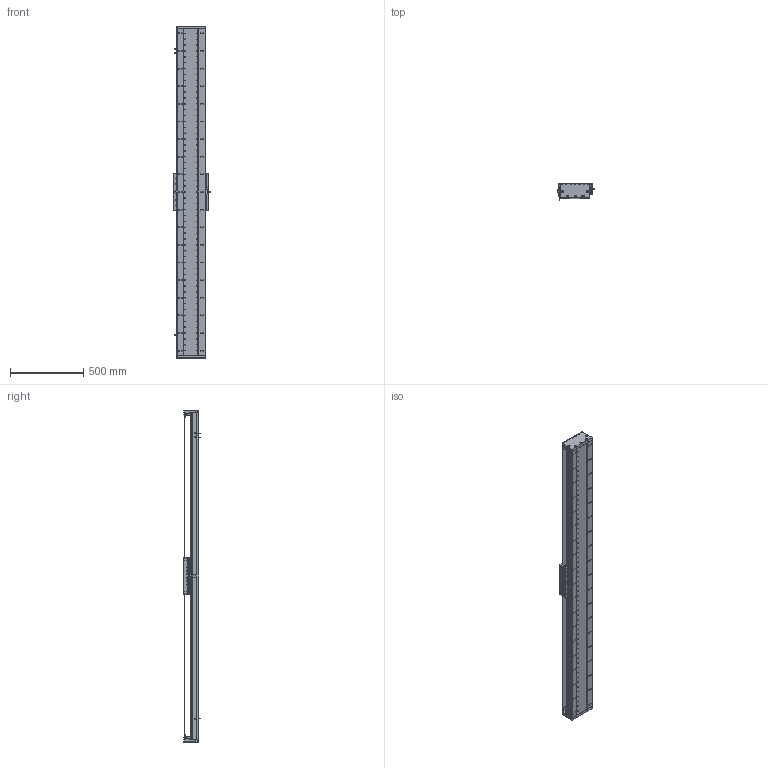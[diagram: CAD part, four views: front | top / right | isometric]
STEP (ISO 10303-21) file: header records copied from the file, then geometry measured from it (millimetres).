
FILE_DESCRIPTION (( 'STEP AP203' ), '1' );
FILE_NAME ('DA-C195-C3-T1920-C010-0.2 眻盄萇儂.STEP', '2025-08-15T01:35:37', ( '' ), ( '' ), 'SwSTEP 2.0', 'SolidWorks 2019', '' );
FILE_SCHEMA (( 'CONFIG_CONTROL_DESIGN' ));
Length unit declared in the file: millimetre
Products named in the file (15): IU-CU195-L-00 菁釱(L2220); DA195詩湍裔啣; IU-CU195-L 菁釱絳寢; DA195詩湍菜輸; DA-C195-C3-T1920-C010-0.2 眻盄萇儂; MS200 棠掑喜S315-T240; DA195詩湍郪璃; DA195詩湍嶺輸; DA95-HXJ-00 遣喳砎蝶; DA165-GYP-00 光电感应片(默认); PM-T45ㄗ侂狟ㄘ; LMT黍杅芛; DA-C195-GD-DB-H-00 傷啣; CU195-C3賑輸-俋楷; 葩璃 DA95-GT-T-00
Assembly tree (29 placements, depth 3):
  DA-C195-C3-T1920-C010-0.2 眻盄萇儂
    DA195詩湍郪璃
      DA195詩湍菜輸  x2
      DA195詩湍裔啣
      DA195詩湍嶺輸  x2
      DA95-HXJ-00 遣喳砎蝶  x8
      DA-C195-GD-DB-H-00 傷啣  x2
    IU-CU195-L 菁釱絳寢
      IU-CU195-L-00 菁釱(L2220)
      葩璃 DA95-GT-T-00  x4
    LMT黍杅芛
    MS200 棠掑喜S315-T240
    PM-T45ㄗ侂狟ㄘ  x3
    DA165-GYP-00 光电感应片(默认)
    CU195-C3賑輸-俋楷
Bounding box: 248 x 115.45 x 2260 mm (x, y, z)
Volume: 13614894.5 mm3; surface area: 3970231.6 mm2
Topology: 86 solids, 118 shells, 4186 faces, 11631 edges, 7313 vertices
Faces by surface type: cylinder 2226, plane 1358, cone 514, torus 52, sphere 36
Entity records: 131959 total; most frequent: CARTESIAN_POINT 34800, ORIENTED_EDGE 20178, DIRECTION 19646, EDGE_CURVE 10089, AXIS2_PLACEMENT_3D 7369, VERTEX_POINT 6515, VECTOR 4908, LINE 4908
